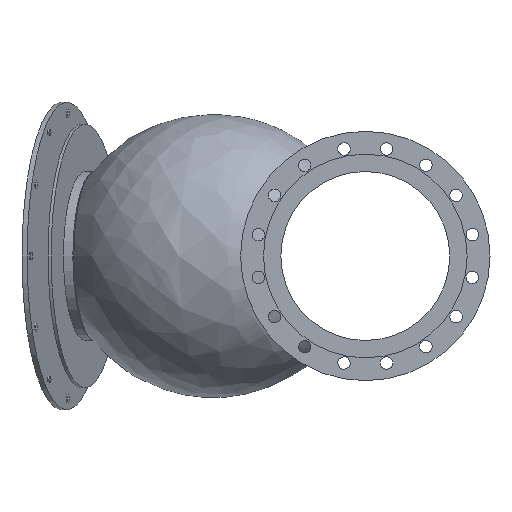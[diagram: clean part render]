
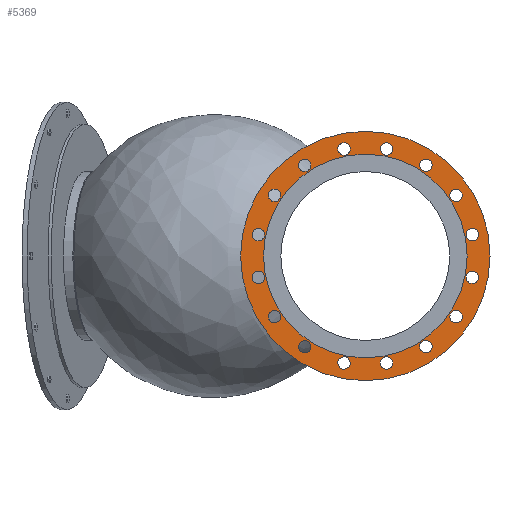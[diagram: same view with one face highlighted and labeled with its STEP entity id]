
A CAD part, left-side view. The second image highlights one B-rep face of the part: STEP entity #5369.
In plain terms, the highlighted planar face has unit normal (-1, 0, 0).
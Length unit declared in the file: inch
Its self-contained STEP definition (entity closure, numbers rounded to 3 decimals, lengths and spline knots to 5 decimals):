
#248=PLANE('',#5776);
#295=FACE_BOUND('',#982,.T.);
#296=FACE_BOUND('',#983,.T.);
#297=FACE_BOUND('',#984,.T.);
#298=FACE_BOUND('',#985,.T.);
#299=FACE_BOUND('',#986,.T.);
#300=FACE_BOUND('',#987,.T.);
#301=FACE_BOUND('',#988,.T.);
#302=FACE_BOUND('',#989,.T.);
#303=FACE_BOUND('',#990,.T.);
#304=FACE_BOUND('',#991,.T.);
#305=FACE_BOUND('',#992,.T.);
#306=FACE_BOUND('',#993,.T.);
#307=FACE_BOUND('',#994,.T.);
#308=FACE_BOUND('',#995,.T.);
#309=FACE_BOUND('',#996,.T.);
#310=FACE_BOUND('',#997,.T.);
#311=FACE_BOUND('',#998,.T.);
#670=FACE_OUTER_BOUND('',#981,.T.);
#981=EDGE_LOOP('',(#4683,#4684));
#982=EDGE_LOOP('',(#4685));
#983=EDGE_LOOP('',(#4686));
#984=EDGE_LOOP('',(#4687));
#985=EDGE_LOOP('',(#4688));
#986=EDGE_LOOP('',(#4689));
#987=EDGE_LOOP('',(#4690));
#988=EDGE_LOOP('',(#4691));
#989=EDGE_LOOP('',(#4692));
#990=EDGE_LOOP('',(#4693));
#991=EDGE_LOOP('',(#4694));
#992=EDGE_LOOP('',(#4695));
#993=EDGE_LOOP('',(#4696));
#994=EDGE_LOOP('',(#4697));
#995=EDGE_LOOP('',(#4698));
#996=EDGE_LOOP('',(#4699));
#997=EDGE_LOOP('',(#4700));
#998=EDGE_LOOP('',(#4701,#4702));
#2098=CIRCLE('',#5398,0.59055);
#2100=CIRCLE('',#5401,0.59055);
#2102=CIRCLE('',#5404,0.59055);
#2104=CIRCLE('',#5407,0.59055);
#2106=CIRCLE('',#5410,0.59055);
#2108=CIRCLE('',#5413,0.59055);
#2110=CIRCLE('',#5416,0.59055);
#2112=CIRCLE('',#5419,0.59055);
#2114=CIRCLE('',#5422,0.59055);
#2116=CIRCLE('',#5425,0.59055);
#2118=CIRCLE('',#5428,0.59055);
#2120=CIRCLE('',#5431,0.59055);
#2122=CIRCLE('',#5434,0.59055);
#2124=CIRCLE('',#5437,0.59055);
#2126=CIRCLE('',#5440,0.59055);
#2128=CIRCLE('',#5443,0.59055);
#2221=CIRCLE('',#5774,9.64565);
#2222=CIRCLE('',#5775,9.64565);
#2223=CIRCLE('',#5777,11.81);
#2224=CIRCLE('',#5778,11.81);
#2235=VERTEX_POINT('',#7157);
#2237=VERTEX_POINT('',#7163);
#2239=VERTEX_POINT('',#7169);
#2241=VERTEX_POINT('',#7175);
#2243=VERTEX_POINT('',#7181);
#2245=VERTEX_POINT('',#7187);
#2247=VERTEX_POINT('',#7193);
#2249=VERTEX_POINT('',#7199);
#2251=VERTEX_POINT('',#7205);
#2253=VERTEX_POINT('',#7211);
#2255=VERTEX_POINT('',#7217);
#2257=VERTEX_POINT('',#7223);
#2259=VERTEX_POINT('',#7229);
#2261=VERTEX_POINT('',#7235);
#2263=VERTEX_POINT('',#7241);
#2265=VERTEX_POINT('',#7247);
#2692=VERTEX_POINT('',#9585);
#2693=VERTEX_POINT('',#9586);
#2694=VERTEX_POINT('',#9591);
#2695=VERTEX_POINT('',#9592);
#2706=EDGE_CURVE('',#2235,#2235,#2098,.T.);
#2709=EDGE_CURVE('',#2237,#2237,#2100,.T.);
#2712=EDGE_CURVE('',#2239,#2239,#2102,.T.);
#2715=EDGE_CURVE('',#2241,#2241,#2104,.T.);
#2718=EDGE_CURVE('',#2243,#2243,#2106,.T.);
#2721=EDGE_CURVE('',#2245,#2245,#2108,.T.);
#2724=EDGE_CURVE('',#2247,#2247,#2110,.T.);
#2727=EDGE_CURVE('',#2249,#2249,#2112,.T.);
#2730=EDGE_CURVE('',#2251,#2251,#2114,.T.);
#2733=EDGE_CURVE('',#2253,#2253,#2116,.T.);
#2736=EDGE_CURVE('',#2255,#2255,#2118,.T.);
#2739=EDGE_CURVE('',#2257,#2257,#2120,.T.);
#2742=EDGE_CURVE('',#2259,#2259,#2122,.T.);
#2745=EDGE_CURVE('',#2261,#2261,#2124,.T.);
#2748=EDGE_CURVE('',#2263,#2263,#2126,.T.);
#2751=EDGE_CURVE('',#2265,#2265,#2128,.T.);
#3381=EDGE_CURVE('',#2692,#2693,#2221,.T.);
#3382=EDGE_CURVE('',#2693,#2692,#2222,.T.);
#3384=EDGE_CURVE('',#2694,#2695,#2223,.T.);
#3385=EDGE_CURVE('',#2695,#2694,#2224,.T.);
#4683=ORIENTED_EDGE('',*,*,#3384,.F.);
#4684=ORIENTED_EDGE('',*,*,#3385,.F.);
#4685=ORIENTED_EDGE('',*,*,#2706,.T.);
#4686=ORIENTED_EDGE('',*,*,#2709,.T.);
#4687=ORIENTED_EDGE('',*,*,#2712,.T.);
#4688=ORIENTED_EDGE('',*,*,#2715,.T.);
#4689=ORIENTED_EDGE('',*,*,#2718,.T.);
#4690=ORIENTED_EDGE('',*,*,#2721,.T.);
#4691=ORIENTED_EDGE('',*,*,#2724,.T.);
#4692=ORIENTED_EDGE('',*,*,#2727,.T.);
#4693=ORIENTED_EDGE('',*,*,#2730,.T.);
#4694=ORIENTED_EDGE('',*,*,#2733,.T.);
#4695=ORIENTED_EDGE('',*,*,#2736,.T.);
#4696=ORIENTED_EDGE('',*,*,#2739,.T.);
#4697=ORIENTED_EDGE('',*,*,#2742,.T.);
#4698=ORIENTED_EDGE('',*,*,#2745,.T.);
#4699=ORIENTED_EDGE('',*,*,#2748,.T.);
#4700=ORIENTED_EDGE('',*,*,#2751,.T.);
#4701=ORIENTED_EDGE('',*,*,#3381,.T.);
#4702=ORIENTED_EDGE('',*,*,#3382,.T.);
#5369=ADVANCED_FACE('',(#670,#295,#296,#297,#298,#299,#300,#301,#302,#303,
#304,#305,#306,#307,#308,#309,#310,#311),#248,.T.);
#5398=AXIS2_PLACEMENT_3D('',#7158,#5813,#5814);
#5401=AXIS2_PLACEMENT_3D('',#7164,#5820,#5821);
#5404=AXIS2_PLACEMENT_3D('',#7170,#5827,#5828);
#5407=AXIS2_PLACEMENT_3D('',#7176,#5834,#5835);
#5410=AXIS2_PLACEMENT_3D('',#7182,#5841,#5842);
#5413=AXIS2_PLACEMENT_3D('',#7188,#5848,#5849);
#5416=AXIS2_PLACEMENT_3D('',#7194,#5855,#5856);
#5419=AXIS2_PLACEMENT_3D('',#7200,#5862,#5863);
#5422=AXIS2_PLACEMENT_3D('',#7206,#5869,#5870);
#5425=AXIS2_PLACEMENT_3D('',#7212,#5876,#5877);
#5428=AXIS2_PLACEMENT_3D('',#7218,#5883,#5884);
#5431=AXIS2_PLACEMENT_3D('',#7224,#5890,#5891);
#5434=AXIS2_PLACEMENT_3D('',#7230,#5897,#5898);
#5437=AXIS2_PLACEMENT_3D('',#7236,#5904,#5905);
#5440=AXIS2_PLACEMENT_3D('',#7242,#5911,#5912);
#5443=AXIS2_PLACEMENT_3D('',#7248,#5918,#5919);
#5774=AXIS2_PLACEMENT_3D('',#9587,#7081,#7082);
#5775=AXIS2_PLACEMENT_3D('',#9588,#7083,#7084);
#5776=AXIS2_PLACEMENT_3D('',#9590,#7086,#7087);
#5777=AXIS2_PLACEMENT_3D('',#9593,#7088,#7089);
#5778=AXIS2_PLACEMENT_3D('',#9594,#7090,#7091);
#5813=DIRECTION('center_axis',(1.,0.,0.));
#5814=DIRECTION('ref_axis',(0.,0.383,0.924));
#5820=DIRECTION('center_axis',(1.,0.,0.));
#5821=DIRECTION('ref_axis',(0.,0.707,0.707));
#5827=DIRECTION('center_axis',(1.,0.,0.));
#5828=DIRECTION('ref_axis',(0.,0.924,0.383));
#5834=DIRECTION('center_axis',(1.,0.,0.));
#5835=DIRECTION('ref_axis',(0.,1.,0.));
#5841=DIRECTION('center_axis',(1.,0.,0.));
#5842=DIRECTION('ref_axis',(0.,0.924,-0.383));
#5848=DIRECTION('center_axis',(1.,0.,0.));
#5849=DIRECTION('ref_axis',(0.,0.707,-0.707));
#5855=DIRECTION('center_axis',(1.,0.,0.));
#5856=DIRECTION('ref_axis',(0.,0.383,-0.924));
#5862=DIRECTION('center_axis',(1.,0.,0.));
#5863=DIRECTION('ref_axis',(0.,0.,-1.));
#5869=DIRECTION('center_axis',(1.,0.,0.));
#5870=DIRECTION('ref_axis',(0.,-0.383,-0.924));
#5876=DIRECTION('center_axis',(1.,0.,0.));
#5877=DIRECTION('ref_axis',(0.,-0.707,-0.707));
#5883=DIRECTION('center_axis',(1.,0.,0.));
#5884=DIRECTION('ref_axis',(0.,-0.924,-0.383));
#5890=DIRECTION('center_axis',(1.,0.,0.));
#5891=DIRECTION('ref_axis',(0.,-1.,0.));
#5897=DIRECTION('center_axis',(1.,0.,0.));
#5898=DIRECTION('ref_axis',(0.,-0.924,0.383));
#5904=DIRECTION('center_axis',(1.,0.,0.));
#5905=DIRECTION('ref_axis',(0.,-0.707,0.707));
#5911=DIRECTION('center_axis',(1.,0.,0.));
#5912=DIRECTION('ref_axis',(0.,-0.383,0.924));
#5918=DIRECTION('center_axis',(1.,0.,0.));
#5919=DIRECTION('ref_axis',(0.,0.,1.));
#7081=DIRECTION('center_axis',(1.,0.,0.));
#7082=DIRECTION('ref_axis',(0.,0.,-1.));
#7083=DIRECTION('center_axis',(1.,0.,0.));
#7084=DIRECTION('ref_axis',(0.,0.,-1.));
#7086=DIRECTION('center_axis',(-1.,0.,0.));
#7087=DIRECTION('ref_axis',(0.,0.,1.));
#7088=DIRECTION('center_axis',(1.,0.,0.));
#7089=DIRECTION('ref_axis',(0.,0.,-1.));
#7090=DIRECTION('center_axis',(1.,0.,0.));
#7091=DIRECTION('ref_axis',(0.,0.,-1.));
#7157=CARTESIAN_POINT('',(-19.33252,8.36695,-6.28722));
#7158=CARTESIAN_POINT('Origin',(-19.33252,8.59295,-5.74162));
#7163=CARTESIAN_POINT('',(-19.33252,5.32404,-9.01053));
#7164=CARTESIAN_POINT('Origin',(-19.33252,5.74162,-8.59295));
#7169=CARTESIAN_POINT('',(-19.33252,1.47059,-10.36207));
#7170=CARTESIAN_POINT('Origin',(-19.33252,2.01619,-10.13607));
#7175=CARTESIAN_POINT('',(-19.33252,-2.60674,-10.13607));
#7176=CARTESIAN_POINT('Origin',(-19.33252,-2.01619,-10.13607));
#7181=CARTESIAN_POINT('',(-19.33252,-6.28722,-8.36695));
#7182=CARTESIAN_POINT('Origin',(-19.33252,-5.74162,-8.59295));
#7187=CARTESIAN_POINT('',(-19.33252,-9.01053,-5.32404));
#7188=CARTESIAN_POINT('Origin',(-19.33252,-8.59295,-5.74162));
#7193=CARTESIAN_POINT('',(-19.33252,-10.36207,-1.47059));
#7194=CARTESIAN_POINT('Origin',(-19.33252,-10.13607,-2.01619));
#7199=CARTESIAN_POINT('',(-19.33252,-10.13607,2.60674));
#7200=CARTESIAN_POINT('Origin',(-19.33252,-10.13607,2.01619));
#7205=CARTESIAN_POINT('',(-19.33252,-8.36695,6.28722));
#7206=CARTESIAN_POINT('Origin',(-19.33252,-8.59295,5.74162));
#7211=CARTESIAN_POINT('',(-19.33252,-5.32404,9.01053));
#7212=CARTESIAN_POINT('Origin',(-19.33252,-5.74162,8.59295));
#7217=CARTESIAN_POINT('',(-19.33252,-1.47059,10.36207));
#7218=CARTESIAN_POINT('Origin',(-19.33252,-2.01619,10.13607));
#7223=CARTESIAN_POINT('',(-19.33252,2.60674,10.13607));
#7224=CARTESIAN_POINT('Origin',(-19.33252,2.01619,10.13607));
#7229=CARTESIAN_POINT('',(-19.33252,6.28722,8.36695));
#7230=CARTESIAN_POINT('Origin',(-19.33252,5.74162,8.59295));
#7235=CARTESIAN_POINT('',(-19.33252,9.01053,5.32404));
#7236=CARTESIAN_POINT('Origin',(-19.33252,8.59295,5.74162));
#7241=CARTESIAN_POINT('',(-19.33252,10.36207,1.47059));
#7242=CARTESIAN_POINT('Origin',(-19.33252,10.13607,2.01619));
#7247=CARTESIAN_POINT('',(-19.33252,10.13607,-2.60674));
#7248=CARTESIAN_POINT('Origin',(-19.33252,10.13607,-2.01619));
#9585=CARTESIAN_POINT('',(-19.33252,9.64565,0.));
#9586=CARTESIAN_POINT('',(-19.33252,-9.64565,0.));
#9587=CARTESIAN_POINT('Origin',(-19.33252,0.,0.));
#9588=CARTESIAN_POINT('Origin',(-19.33252,0.,0.));
#9590=CARTESIAN_POINT('Origin',(-19.33252,11.81,0.));
#9591=CARTESIAN_POINT('',(-19.33252,11.81,0.));
#9592=CARTESIAN_POINT('',(-19.33252,-11.81,0.));
#9593=CARTESIAN_POINT('Origin',(-19.33252,0.,0.));
#9594=CARTESIAN_POINT('Origin',(-19.33252,0.,0.));
